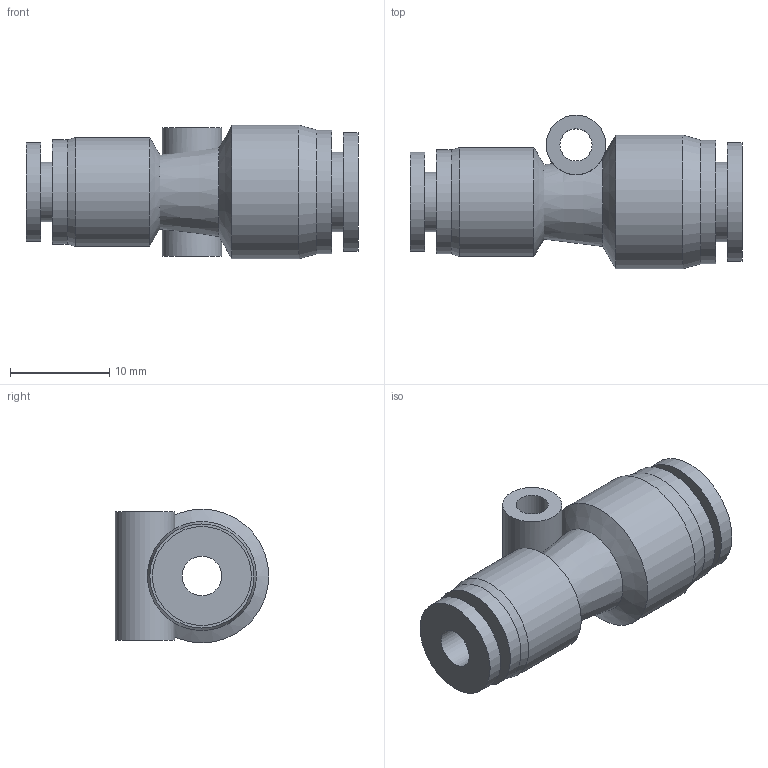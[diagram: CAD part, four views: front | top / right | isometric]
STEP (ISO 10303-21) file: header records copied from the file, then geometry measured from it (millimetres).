
FILE_DESCRIPTION((''),'2;1');
FILE_NAME('S:\UTecnico\ArchivioUT\Speciali Clienti\Speciali KONFIT\RP\06\RP 53\RP530604.stp','2012-03-29T14:11:45',('UT5'),(''),'Autodesk Inventor 2012','Autodesk Inventor 2012','');
FILE_SCHEMA(('AUTOMOTIVE_DESIGN { 1 0 10303 214 1 1 1 1 }'));
Length unit declared in the file: millimetre
Products named in the file (1): RP530604
Bounding box: 33.5 x 15.5 x 13.5 mm (x, y, z)
Volume: 2767.2 mm3; surface area: 2515.4 mm2
Topology: 1 solids, 1 shells, 27 faces, 51 edges, 32 vertices
Faces by surface type: cylinder 13, plane 9, cone 5
Full cylindrical faces by diameter (mm): 3.25 x1, 4 x1, 6 x3, 8 x1, 10 x1, 10.5 x1, 11 x1, 12 x1, 12.5 x1, 13.5 x1
Entity records: 693 total; most frequent: CARTESIAN_POINT 163, DIRECTION 109, ORIENTED_EDGE 60, AXIS2_PLACEMENT_3D 54, EDGE_LOOP 54, EDGE_CURVE 30, VERTEX_POINT 28, FACE_OUTER_BOUND 27
